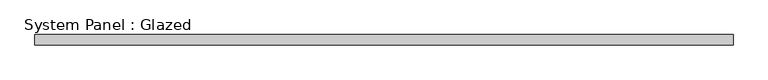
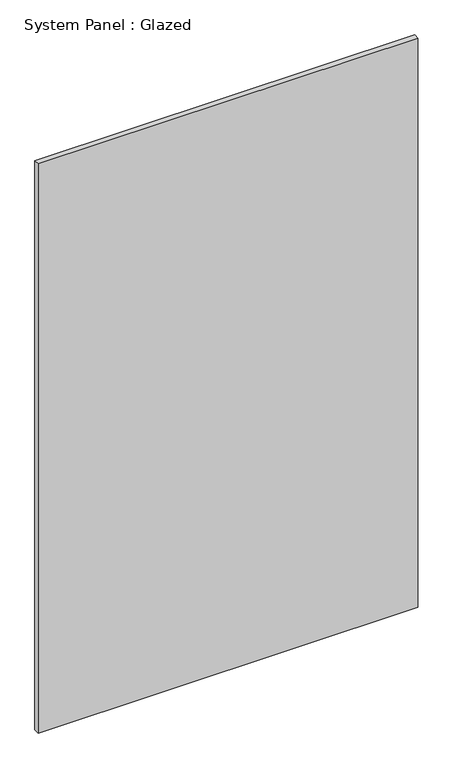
"""IFC4 building model written with IfcOpenShell, lengths in millimetres: plate geometry, System Panel : Glazed."""

from ifc_helpers import new_model, si_unit, origin, origin_with_axes, place, context, project, spatial, polyline, outline, extrude, source, transform, mapped, element, save


def system_panel_glazed_a975786e(model_context):
    return source(origin(), model_context, "Body", "SweptSolid", [
        extrude(outline(polyline([(855.4684602, 19.05), (-855.4684602, 19.05), (-855.4684602, 44.45), (855.4684602, 44.45), (855.4684602, 19.05)])), origin_with_axes(), (0.0, 0.0, 1.0), 2711.4294337),
    ])


if __name__ == "__main__":
    model = new_model("IFC4")
    model_context = context("Model", 3, world=origin())
    ifc_project = project(units=[si_unit("LENGTHUNIT", "METRE", prefix="MILLI")], contexts=[model_context])
    site = spatial("IfcSite", under=ifc_project)
    building = spatial("IfcBuilding", under=site)
    placement = place(None, origin())
    system_panel_glazed_shape = system_panel_glazed_a975786e(model_context)
    element("IfcPlate", 1, ObjectType="System Panel : Glazed", at=placement, inside=building, context=model_context, shape_type="MappedRepresentation", body=[
        mapped(system_panel_glazed_shape, transform((0.0, 0.0, 0.0), x_axis=(1.0, 0.0, 0.0), y_axis=(0.0, 1.0, 0.0), z_axis=(0.0, 0.0, 1.0))),
    ])
    save(model, "model.ifc")
